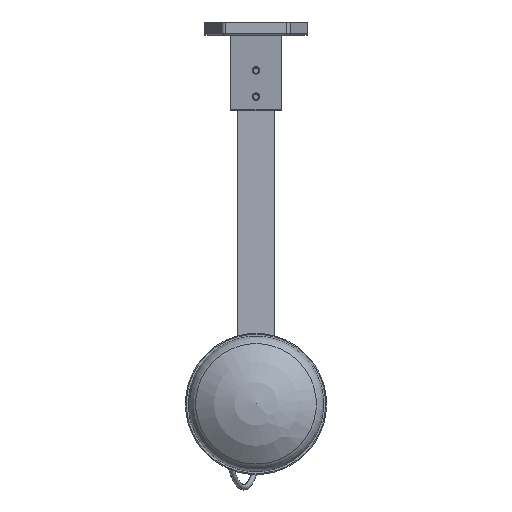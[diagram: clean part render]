
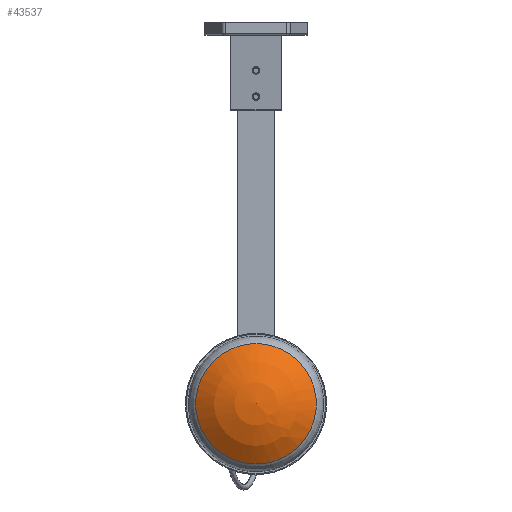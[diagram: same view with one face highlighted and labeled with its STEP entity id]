
A CAD part, top view. The second image highlights one B-rep face of the part: STEP entity #43537.
In plain terms, the highlighted spherical face has radius 100 mm.
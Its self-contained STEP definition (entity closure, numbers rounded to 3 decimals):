
#43473 = TOROIDAL_SURFACE('',#43474,51.8,20.);
#43474 = AXIS2_PLACEMENT_3D('',#43475,#43476,#43477);
#43475 = CARTESIAN_POINT('',(0.,0.,13.));
#43476 = DIRECTION('',(0.,0.,1.));
#43477 = DIRECTION('',(1.,0.,-0.));
#43490 = VERTEX_POINT('',#43491);
#43491 = CARTESIAN_POINT('',(63.847,0.,28.964));
#43511 = EDGE_CURVE('',#43490,#43490,#43512,.T.);
#43512 = SURFACE_CURVE('',#43513,(#43518,#43524),.PCURVE_S1.);
#43513 = CIRCLE('',#43514,63.847);
#43514 = AXIS2_PLACEMENT_3D('',#43515,#43516,#43517);
#43515 = CARTESIAN_POINT('',(0.,0.,28.964));
#43516 = DIRECTION('',(0.,0.,-1.));
#43517 = DIRECTION('',(1.,0.,0.));
#43518 = PCURVE('',#43473,#43519);
#43519 = DEFINITIONAL_REPRESENTATION('',(#43520),#43523);
#43520 = B_SPLINE_CURVE_WITH_KNOTS('',1,(#43521,#43522),.UNSPECIFIED.,
  .F.,.F.,(2,2),(0.,6.283),.PIECEWISE_BEZIER_KNOTS.);
#43521 = CARTESIAN_POINT('',(6.283,0.924));
#43522 = CARTESIAN_POINT('',(0.,0.924));
#43523 = ( GEOMETRIC_REPRESENTATION_CONTEXT(2) 
PARAMETRIC_REPRESENTATION_CONTEXT() REPRESENTATION_CONTEXT('2D SPACE',''
  ) );
#43524 = PCURVE('',#43525,#43530);
#43525 = SPHERICAL_SURFACE('',#43526,100.);
#43526 = AXIS2_PLACEMENT_3D('',#43527,#43528,#43529);
#43527 = CARTESIAN_POINT('',(0.,0.,-48.));
#43528 = DIRECTION('',(0.,0.,1.));
#43529 = DIRECTION('',(1.,0.,-0.));
#43530 = DEFINITIONAL_REPRESENTATION('',(#43531),#43534);
#43531 = B_SPLINE_CURVE_WITH_KNOTS('',1,(#43532,#43533),.UNSPECIFIED.,
  .F.,.F.,(2,2),(0.,6.283),.PIECEWISE_BEZIER_KNOTS.);
#43532 = CARTESIAN_POINT('',(6.283,0.878));
#43533 = CARTESIAN_POINT('',(0.,0.878));
#43534 = ( GEOMETRIC_REPRESENTATION_CONTEXT(2) 
PARAMETRIC_REPRESENTATION_CONTEXT() REPRESENTATION_CONTEXT('2D SPACE',''
  ) );
#43537 = ADVANCED_FACE('',(#43538),#43525,.T.);
#43538 = FACE_BOUND('',#43539,.T.);
#43539 = EDGE_LOOP('',(#43540,#43562,#43563));
#43540 = ORIENTED_EDGE('',*,*,#43541,.T.);
#43541 = EDGE_CURVE('',#43490,#43542,#43544,.T.);
#43542 = VERTEX_POINT('',#43543);
#43543 = CARTESIAN_POINT('',(0.,0.,52.));
#43544 = SEAM_CURVE('',#43545,(#43550,#43556),.PCURVE_S1.);
#43545 = CIRCLE('',#43546,100.);
#43546 = AXIS2_PLACEMENT_3D('',#43547,#43548,#43549);
#43547 = CARTESIAN_POINT('',(0.,0.,-48.));
#43548 = DIRECTION('',(0.,-1.,0.));
#43549 = DIRECTION('',(1.,0.,0.));
#43550 = PCURVE('',#43525,#43551);
#43551 = DEFINITIONAL_REPRESENTATION('',(#43552),#43555);
#43552 = B_SPLINE_CURVE_WITH_KNOTS('',1,(#43553,#43554),.UNSPECIFIED.,
  .F.,.F.,(2,2),(0.878,1.571),
  .PIECEWISE_BEZIER_KNOTS.);
#43553 = CARTESIAN_POINT('',(6.283,0.878));
#43554 = CARTESIAN_POINT('',(6.283,1.571));
#43555 = ( GEOMETRIC_REPRESENTATION_CONTEXT(2) 
PARAMETRIC_REPRESENTATION_CONTEXT() REPRESENTATION_CONTEXT('2D SPACE',''
  ) );
#43556 = PCURVE('',#43525,#43557);
#43557 = DEFINITIONAL_REPRESENTATION('',(#43558),#43561);
#43558 = B_SPLINE_CURVE_WITH_KNOTS('',1,(#43559,#43560),.UNSPECIFIED.,
  .F.,.F.,(2,2),(0.878,1.571),
  .PIECEWISE_BEZIER_KNOTS.);
#43559 = CARTESIAN_POINT('',(0.,0.878));
#43560 = CARTESIAN_POINT('',(0.,1.571));
#43561 = ( GEOMETRIC_REPRESENTATION_CONTEXT(2) 
PARAMETRIC_REPRESENTATION_CONTEXT() REPRESENTATION_CONTEXT('2D SPACE',''
  ) );
#43562 = ORIENTED_EDGE('',*,*,#43541,.F.);
#43563 = ORIENTED_EDGE('',*,*,#43511,.F.);
